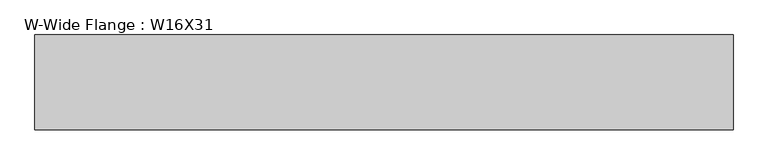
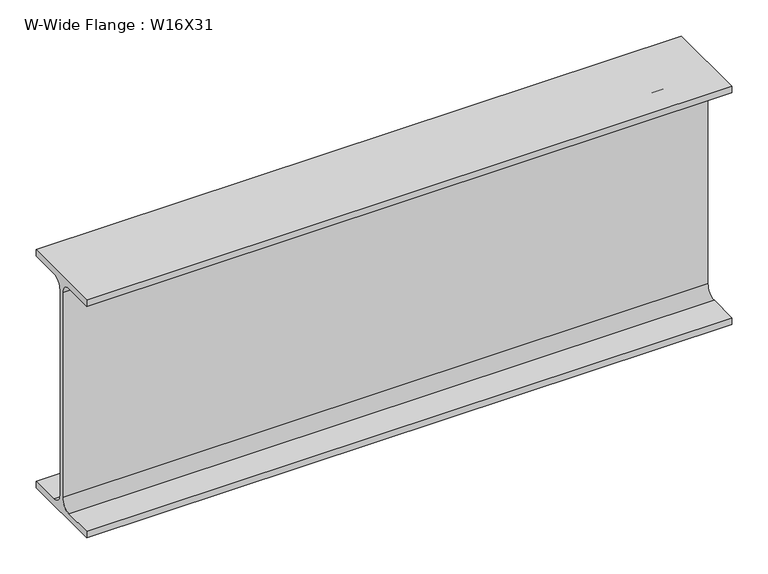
"""IFC4 building model written with IfcOpenShell, lengths in millimetres: beam geometry, W-Wide Flange : W16X31."""

from ifc_helpers import new_model, si_unit, point, frame, frame_2d, origin, place, context, project, spatial, polyline, circle_curve, trimmed, segment, composite_curve, outline, extrude, source, transform, mapped, element, save


def w_wide_flange_w16x31_2e755f9a(model_context):
    return source(origin(), model_context, "Body", "SweptSolid", [
        extrude(outline(composite_curve([segment(polyline([(70.231, -190.754), (70.231, -201.93), (-70.231, -201.93), (-70.231, -190.754), (-20.8915, -190.754)]), True, "CONTINUOUS"), segment(trimmed(circle_curve(frame_2d((-20.8915, -173.355)), 17.399), [point((-20.8915, -190.754))], [point((-3.4925, -173.355))], True, "CARTESIAN"), True, "CONTINUOUS"), segment(polyline([(-3.4925, -173.355), (-3.4925, 173.355)]), True, "CONTINUOUS"), segment(trimmed(circle_curve(frame_2d((-20.8915, 173.355)), 17.399), [point((-3.4925, 173.355))], [point((-20.8915, 190.754))], True, "CARTESIAN"), True, "CONTINUOUS"), segment(polyline([(-20.8915, 190.754), (-70.231, 190.754), (-70.231, 201.93), (70.231, 201.93), (70.231, 190.754), (20.8915, 190.754)]), True, "CONTINUOUS"), segment(trimmed(circle_curve(frame_2d((20.8915, 173.355)), 17.399), [point((20.8915, 190.754))], [point((3.4925, 173.355))], True, "CARTESIAN"), True, "CONTINUOUS"), segment(polyline([(3.4925, 173.355), (3.4925, -173.355)]), True, "CONTINUOUS"), segment(trimmed(circle_curve(frame_2d((20.8915, -173.355)), 17.399), [point((3.4925, -173.355))], [point((20.8915, -190.754))], True, "CARTESIAN"), True, "CONTINUOUS"), segment(polyline([(20.8915, -190.754), (70.231, -190.754)]), True, "CONTINUOUS")], self_intersect=False)), frame((-509.7879677, 0.0, 0.0), z_axis=(1.0, 0.0, 0.0), x_axis=(0.0, 1.0, 0.0)), (0.0, 0.0, 1.0), 1033.9835215),
    ])


if __name__ == "__main__":
    model = new_model("IFC4")
    model_context = context("Model", 3, world=origin())
    ifc_project = project(units=[si_unit("LENGTHUNIT", "METRE", prefix="MILLI")], contexts=[model_context])
    site = spatial("IfcSite", under=ifc_project)
    building = spatial("IfcBuilding", under=site)
    placement = place(None, origin())
    w_wide_flange_w16x31_shape = w_wide_flange_w16x31_2e755f9a(model_context)
    element("IfcBeam", 1, ObjectType="W-Wide Flange : W16X31", at=placement, inside=building, context=model_context, shape_type="MappedRepresentation", body=[
        mapped(w_wide_flange_w16x31_shape, transform((0.0, 0.0, 0.0), x_axis=(1.0, 0.0, 0.0), y_axis=(0.0, 1.0, 0.0), z_axis=(0.0, 0.0, 1.0))),
    ])
    save(model, "model.ifc")
